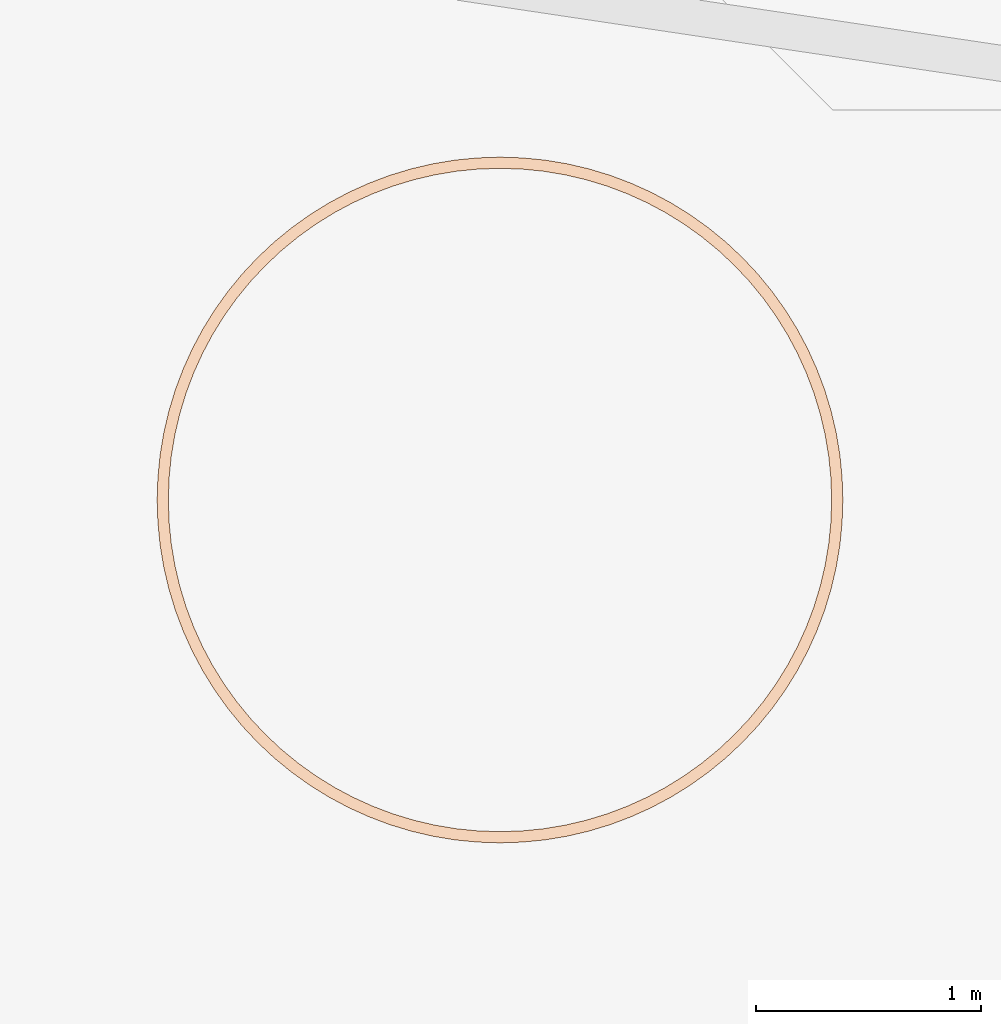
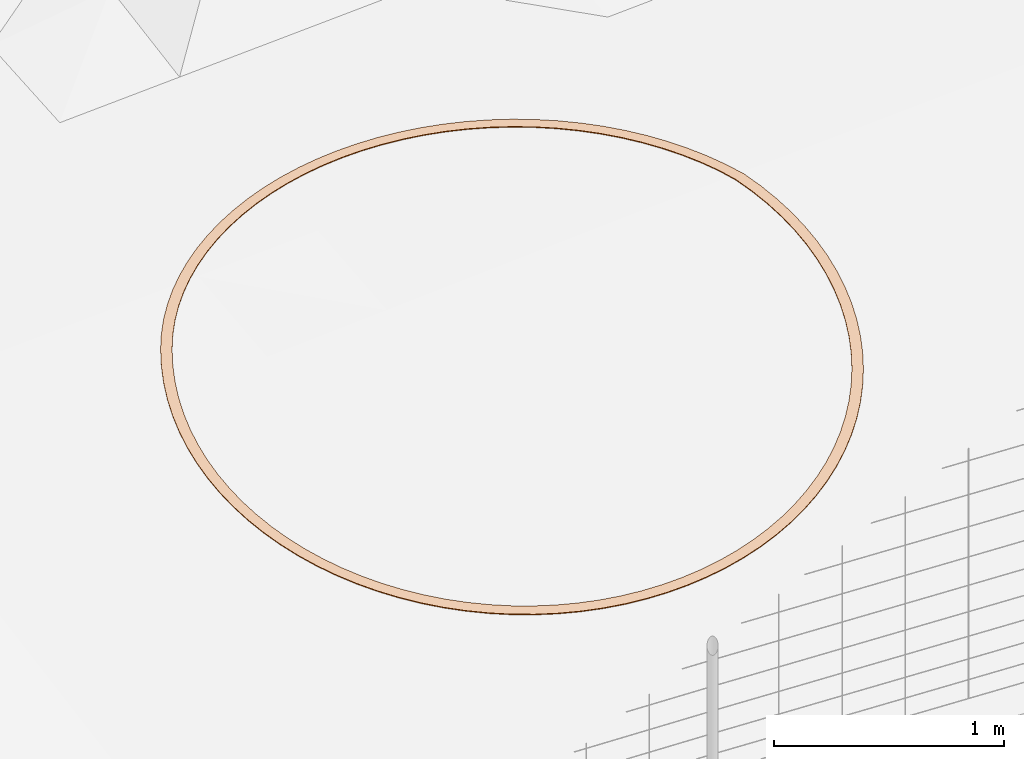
# Not in any storey, part 65 of 72: 1 geographic element.
"""IFC4 model written with IfcOpenShell, lengths in metres."""

from ifc_helpers import new_model, si_unit, direction, frame, origin_with_axes, place, context, subcontext, project, spatial, polygons, material, element, save


model = new_model("IFC4")

# Units and contexts
model_context = context("Model", 3, precision=1e-05, world=origin_with_axes(), true_north=direction((0.0, 1.0)))
body_context = subcontext(model_context, "Body", "Model", "MODEL_VIEW")
ifc_project = project(units=[si_unit("AREAUNIT", "SQUARE_METRE"), si_unit("VOLUMEUNIT", "CUBIC_METRE"), si_unit("LENGTHUNIT", "METRE")], contexts=[model_context])

# Site
site_placement = place(None, origin_with_axes())
site = spatial("IfcSite", under=ifc_project, at=site_placement, Name="Lares · Rua das Mercês · artigo 4771")

# Geographic element
ifc_material = material(Name="Marcação de plantação · linha no terreno", Category="stone")
geographic_element_placement = place(site_placement, frame((0.0, 0.0, 0.0), z_axis=(0.0, 0.0, 1.0), x_axis=(1.0, -1.03767253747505e-17, 0.0)))
element("IfcGeographicElement", 1, at=geographic_element_placement, inside=site, material=ifc_material, Name="Marcação no solo · árvore indicativa 06", ObjectType="Marcação no solo · árvore indicativa 06", PredefinedType="USERDEFINED", context=body_context, shape_type="Tessellation", body=[
    polygons([(39.4871146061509, 1.30639640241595, 13.7427497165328), (39.4871146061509, 1.30639640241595, 13.7467497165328), (39.5371146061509, 1.30639640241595, 13.7459093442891), (39.5371146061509, 1.30639640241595, 13.7499093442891), (39.4839565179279, 1.40286601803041, 13.7597891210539), (39.4839565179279, 1.40286601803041, 13.7637891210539), (39.5338494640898, 1.40613617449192, 13.7635263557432), (39.5338494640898, 1.40613617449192, 13.7675263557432), (39.4744957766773, 1.49892253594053, 13.7763564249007), (39.4744957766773, 1.49892253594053, 13.7803564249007), (39.524068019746, 1.50544884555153, 13.7806552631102), (39.524068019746, 1.50544884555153, 13.7846552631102), (39.4587728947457, 1.59415462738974, 13.7923806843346), (39.4587728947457, 1.59415462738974, 13.7963806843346), (39.5078121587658, 1.60390914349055, 13.7972227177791), (39.5078121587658, 1.60390914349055, 13.8012227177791), (39.4368551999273, 1.68815449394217, 13.8077932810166), (39.4368551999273, 1.68815449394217, 13.8117932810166), (39.4851514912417, 1.70109544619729, 13.8131577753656), (39.4851514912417, 1.70109544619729, 13.8171577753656), (39.4088365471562, 1.78051961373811, 13.8225282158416), (39.4088365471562, 1.78051961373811, 13.8265282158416), (39.456183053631, 1.79659158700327, 13.8282523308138), (39.456183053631, 1.79659158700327, 13.8322523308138), (39.3748369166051, 1.87085446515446, 13.8292976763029), (39.3748369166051, 1.87085446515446, 13.8332976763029), (39.4210308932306, 1.88998863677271, 13.8330959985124), (39.4210308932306, 1.88998863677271, 13.8370959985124), (39.3350018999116, 1.95877222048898, 13.833502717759), (39.3350018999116, 1.95877222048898, 13.837502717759), (39.3798455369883, 1.98088665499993, 13.8374435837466), (39.3798455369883, 1.98088665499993, 13.8414435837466), (39.289502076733, 2.04389640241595, 13.8372099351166), (39.289502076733, 2.04389640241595, 13.8412099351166), (39.3328033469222, 2.06889640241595, 13.8412764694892), (39.3328033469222, 2.06889640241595, 13.8452764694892), (39.2385322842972, 2.12586249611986, 13.8404034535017), (39.2385322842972, 2.12586249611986, 13.8444034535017), (39.2801057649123, 2.15364100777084, 13.8445782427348), (39.2801057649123, 2.15364100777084, 13.8485782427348), (39.1823107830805, 2.20431951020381, 13.8430695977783), (39.1823107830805, 2.20431951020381, 13.8470695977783), (39.2219784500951, 2.23475758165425, 13.8473347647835), (39.2219784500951, 2.23475758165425, 13.8513347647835), (39.1210783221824, 2.27893147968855, 13.8451969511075), (39.1210783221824, 2.27893147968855, 13.8491969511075), (39.1586703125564, 2.31189877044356, 13.8495342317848), (39.1586703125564, 2.31189877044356, 13.8535342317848), (39.0550971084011, 2.34937890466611, 13.8467764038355), (39.0550971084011, 2.34937890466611, 13.8507764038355), (39.0904524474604, 2.38473424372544, 13.8511672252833), (39.0904524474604, 2.38473424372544, 13.8551672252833), (38.9846496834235, 2.41536011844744, 13.8478011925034), (38.9846496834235, 2.41536011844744, 13.8518011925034), (39.0176169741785, 2.45295210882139, 13.8522267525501), (39.0176169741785, 2.45295210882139, 13.8562267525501), (38.9100377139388, 2.47659257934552, 13.8482669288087), (38.9100377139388, 2.47659257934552, 13.8522669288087), (38.9404757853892, 2.51626024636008, 13.8527082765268), (38.9404757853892, 2.51626024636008, 13.8567082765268), (38.8315806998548, 2.53281408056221, 13.8481716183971), (38.8315806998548, 2.53281408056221, 13.8521716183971), (38.8593592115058, 2.57438756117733, 13.8526097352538), (38.8593592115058, 2.57438756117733, 13.8566097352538), (38.7496146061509, 2.583783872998, 13.8475156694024), (38.7496146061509, 2.583783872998, 13.8515156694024), (38.7746146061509, 2.62708514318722, 13.8519315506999), (38.7746146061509, 2.62708514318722, 13.8559315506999), (38.6644904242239, 2.62928369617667, 13.8463018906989), (38.6644904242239, 2.62928369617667, 13.8503018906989), (38.6866048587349, 2.6741273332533, 13.8506766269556), (38.6866048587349, 2.6741273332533, 13.8546766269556), (38.5765726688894, 2.6691187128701, 13.8445354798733), (38.5765726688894, 2.6691187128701, 13.8485354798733), (38.5957068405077, 2.71531268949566, 13.848850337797), (38.5957068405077, 2.71531268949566, 13.852850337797), (38.4862378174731, 2.70311834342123, 13.842224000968), (38.4862378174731, 2.70311834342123, 13.846224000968), (38.5023097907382, 2.75046484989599, 13.8464605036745), (38.5023097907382, 2.75046484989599, 13.8504605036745), (38.3938726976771, 2.73113699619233, 13.8393773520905), (38.3938726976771, 2.73113699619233, 13.8433773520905), (38.4068136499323, 2.77943328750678, 13.843517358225), (38.4068136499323, 2.77943328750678, 13.847517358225), (38.2998728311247, 2.75305469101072, 13.8360077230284), (38.2998728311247, 2.75305469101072, 13.8400077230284), (38.3096273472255, 2.80209395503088, 13.8400335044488), (38.3096273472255, 2.80209395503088, 13.8440335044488), (38.2046407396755, 2.76877757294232, 13.8321295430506), (38.2046407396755, 2.76877757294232, 13.8361295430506), (38.2111670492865, 2.81834981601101, 13.8360238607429), (38.2111670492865, 2.81834981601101, 13.8400238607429), (38.1085842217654, 2.77823831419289, 13.8277594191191), (38.1085842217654, 2.77823831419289, 13.8317594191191), (38.1118543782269, 2.82813126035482, 13.8315055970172), (38.1118543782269, 2.82813126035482, 13.8355055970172), (38.0121146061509, 2.78139640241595, 13.8229160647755), (38.0121146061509, 2.78139640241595, 13.8269160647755), (38.0121146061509, 2.83139640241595, 13.8264980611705), (38.0121146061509, 2.83139640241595, 13.8304980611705), (37.9156449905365, 2.77823831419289, 13.8176202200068), (37.9156449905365, 2.77823831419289, 13.8216202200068), (37.9123748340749, 2.82813126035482, 13.8210226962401), (37.9123748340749, 2.82813126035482, 13.8250226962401), (37.8195884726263, 2.76877757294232, 13.8118945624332), (37.8195884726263, 2.76877757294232, 13.8158945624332), (37.8130621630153, 2.81834981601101, 13.8151029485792), (37.8130621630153, 2.81834981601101, 13.8191029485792), (37.7243563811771, 2.75305469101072, 13.8057636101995), (37.7243563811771, 2.75305469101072, 13.8097636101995), (37.7146018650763, 2.80209395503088, 13.8087641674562), (37.7146018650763, 2.80209395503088, 13.8127641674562), (37.6303565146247, 2.73113699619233, 13.7992536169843), (37.6303565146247, 2.73113699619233, 13.8032536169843), (37.6174155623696, 2.77943328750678, 13.802033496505), (37.6174155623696, 2.77943328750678, 13.806033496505), (37.5379913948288, 2.70311834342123, 13.7923924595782), (37.5379913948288, 2.70311834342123, 13.7963924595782), (37.5219194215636, 2.75046484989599, 13.7949397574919), (37.5219194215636, 2.75046484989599, 13.7989397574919), (37.4476565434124, 2.6691187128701, 13.7852095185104), (37.4476565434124, 2.6691187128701, 13.7892095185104), (37.4285223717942, 2.71531268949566, 13.7875133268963), (37.4285223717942, 2.71531268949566, 13.7915133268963), (37.3597387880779, 2.62928369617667, 13.7777355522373), (37.3597387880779, 2.62928369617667, 13.7817355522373), (37.3376243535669, 2.6741273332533, 13.7797860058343), (37.3376243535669, 2.6741273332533, 13.7837860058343), (37.2746146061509, 2.583783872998, 13.7700025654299), (37.2746146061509, 2.583783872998, 13.7740025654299), (37.2496146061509, 2.62708514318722, 13.7717908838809), (37.2496146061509, 2.62708514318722, 13.7757908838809), (37.192648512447, 2.53281408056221, 13.762043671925), (37.192648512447, 2.53281408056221, 13.766043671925), (37.164870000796, 2.57438756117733, 13.7635621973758), (37.164870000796, 2.57438756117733, 13.7675621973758), (37.1141914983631, 2.47659257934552, 13.7538929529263), (37.1141914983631, 2.47659257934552, 13.7578929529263), (37.0837534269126, 2.51626024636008, 13.7551351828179), (37.0837534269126, 2.51626024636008, 13.7591351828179), (37.0395795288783, 2.41536011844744, 13.745585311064), (37.0395795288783, 2.41536011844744, 13.749585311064), (37.0066122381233, 2.45295210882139, 13.7465459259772), (37.0066122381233, 2.45295210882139, 13.7505459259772), (36.9691321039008, 2.34937890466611, 13.737156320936), (36.9691321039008, 2.34937890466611, 13.741156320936), (36.9337767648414, 2.38473424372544, 13.7378312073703), (36.9337767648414, 2.38473424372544, 13.7418312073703), (36.9031508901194, 2.27893147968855, 13.7286420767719), (36.9031508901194, 2.27893147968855, 13.7326420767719), (36.8655588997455, 2.31189877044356, 13.72902834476), (36.8655588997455, 2.31189877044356, 13.73302834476), (36.8419184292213, 2.20431951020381, 13.7200790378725), (36.8419184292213, 2.20431951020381, 13.7240790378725), (36.8022507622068, 2.23475758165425, 13.7201750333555), (36.8022507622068, 2.23475758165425, 13.7241750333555), (36.7856969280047, 2.12586249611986, 13.7115038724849), (36.7856969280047, 2.12586249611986, 13.7155038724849), (36.7441234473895, 2.15364100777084, 13.7113091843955), (36.7441234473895, 2.15364100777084, 13.7153091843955), (36.7347271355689, 2.04389640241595, 13.7006094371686), (36.7347271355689, 2.04389640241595, 13.7046094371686), (36.6914258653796, 2.06889640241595, 13.7023405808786), (36.6914258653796, 2.06889640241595, 13.7063405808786), (36.6892273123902, 1.95877222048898, 13.6825226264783), (36.6892273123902, 1.95877222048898, 13.6865226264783), (36.6443836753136, 1.98088665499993, 13.6836406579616), (36.6443836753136, 1.98088665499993, 13.6876406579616), (36.6493922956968, 1.87085446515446, 13.6642945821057), (36.6493922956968, 1.87085446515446, 13.6682945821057), (36.6031983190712, 1.88998863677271, 13.6647947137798), (36.6031983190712, 1.88998863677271, 13.6687947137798), (36.6153926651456, 1.78051961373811, 13.6460033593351), (36.6153926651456, 1.78051961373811, 13.6500033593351), (36.5680461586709, 1.79659158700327, 13.6458834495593), (36.5680461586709, 1.79659158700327, 13.6498834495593), (36.5873740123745, 1.68815449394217, 13.6277272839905), (36.5873740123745, 1.68815449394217, 13.6317272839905), (36.5390777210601, 1.7010954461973, 13.6269878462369), (36.5390777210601, 1.7010954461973, 13.6309878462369), (36.5654563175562, 1.59415462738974, 13.6095446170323), (36.5654563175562, 1.59415462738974, 13.6135446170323), (36.516417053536, 1.60390914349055, 13.6081888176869), (36.516417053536, 1.60390914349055, 13.6121888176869), (36.5497334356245, 1.49892253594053, 13.591533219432), (36.5497334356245, 1.49892253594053, 13.595533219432), (36.5001611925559, 1.50544884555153, 13.5895668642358), (36.5001611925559, 1.50544884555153, 13.5935668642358), (36.540272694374, 1.40286601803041, 13.5737702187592), (36.540272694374, 1.40286601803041, 13.5777702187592), (36.490379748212, 1.40613617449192, 13.5712017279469), (36.490379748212, 1.40613617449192, 13.5752017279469), (36.5371146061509, 1.30639640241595, 13.5563316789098), (36.5371146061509, 1.30639640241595, 13.5603316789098), (36.4871146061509, 1.30639640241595, 13.5531720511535), (36.4871146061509, 1.30639640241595, 13.5571720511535), (36.540272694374, 1.20992678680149, 13.5392922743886), (36.540272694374, 1.20992678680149, 13.5432922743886), (36.490379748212, 1.20665663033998, 13.5355550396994), (36.490379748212, 1.20665663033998, 13.5395550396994), (36.5497334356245, 1.11387026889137, 13.5227249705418), (36.5497334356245, 1.11387026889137, 13.5267249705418), (36.5001611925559, 1.10734395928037, 13.5184261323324), (36.5001611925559, 1.10734395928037, 13.5224261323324), (36.5654563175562, 1.01863817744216, 13.5067007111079), (36.5654563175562, 1.01863817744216, 13.5107007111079), (36.516417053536, 1.00888366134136, 13.5018586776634), (36.516417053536, 1.00888366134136, 13.5058586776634), (36.5873740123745, 0.924638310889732, 13.4912881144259), (36.5873740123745, 0.924638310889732, 13.4952881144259), (36.5390777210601, 0.911697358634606, 13.4859236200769), (36.5390777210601, 0.911697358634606, 13.4899236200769), (36.6153926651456, 0.832273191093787, 13.4765531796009), (36.6153926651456, 0.832273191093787, 13.4805531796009), (36.5680461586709, 0.816201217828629, 13.4706891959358), (36.5680461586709, 0.816201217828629, 13.4746891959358), (36.6493922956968, 0.741938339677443, 13.4625590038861), (36.6493922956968, 0.741938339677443, 13.4665590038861), (36.6031983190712, 0.722804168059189, 13.4562206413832), (36.6031983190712, 0.722804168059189, 13.4602206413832), (36.6892273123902, 0.654020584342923, 13.4493655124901), (36.6892273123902, 0.654020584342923, 13.4533655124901), (36.6443836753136, 0.631906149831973, 13.4425799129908), (36.6443836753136, 0.631906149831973, 13.4465799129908), (36.7347271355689, 0.568896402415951, 13.4370292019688), (36.7347271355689, 0.568896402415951, 13.4410292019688), (36.6914258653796, 0.543896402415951, 13.4298254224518), (36.6914258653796, 0.543896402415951, 13.4338254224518), (36.7856969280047, 0.486930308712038, 13.4256028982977), (36.7856969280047, 0.486930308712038, 13.4296028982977), (36.7441234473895, 0.459151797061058, 13.4180117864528), (36.7441234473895, 0.459151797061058, 13.4220117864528), (36.8419184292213, 0.408473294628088, 13.4151355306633), (36.8419184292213, 0.408473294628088, 13.4191355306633), (36.8022507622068, 0.378035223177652, 13.4071895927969), (36.8022507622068, 0.378035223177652, 13.4111895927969), (36.9031508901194, 0.333861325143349, 13.4056719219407), (36.9031508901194, 0.333861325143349, 13.4096719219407), (36.8655588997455, 0.300894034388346, 13.3974051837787), (36.8655588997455, 0.300894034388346, 13.4014051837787), (36.9691321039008, 0.263413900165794, 13.3972525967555), (36.9691321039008, 0.263413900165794, 13.4012525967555), (36.9337767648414, 0.228058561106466, 13.3887004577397), (36.9337767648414, 0.228058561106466, 13.3927004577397), (37.0395795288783, 0.197432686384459, 13.3899136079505), (37.0395795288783, 0.197432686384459, 13.3939136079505), (37.0066122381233, 0.15984069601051, 13.3811126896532), (37.0066122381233, 0.15984069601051, 13.3851126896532), (37.1141914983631, 0.136200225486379, 13.3836863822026), (37.1141914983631, 0.136200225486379, 13.3876863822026), (37.0837534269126, 0.0965325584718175, 13.3746743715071), (37.0837534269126, 0.0965325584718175, 13.3786743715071), (37.192648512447, 0.0799787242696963, 13.3785975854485), (37.192648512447, 0.0799787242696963, 13.3825975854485), (37.164870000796, 0.0384052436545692, 13.3694130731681), (37.164870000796, 0.0384052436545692, 13.3734130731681), (37.2746146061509, 0.0290089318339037, 13.3746690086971), (37.2746146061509, 0.0290089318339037, 13.3786690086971), (37.2496146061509, -0.014292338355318, 13.3653513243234), (37.2496146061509, -0.014292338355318, 13.3693513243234), (37.3597387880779, -0.0164908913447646, 13.3719174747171), (37.3597387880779, -0.0164908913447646, 13.3759174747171), (37.3376243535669, -0.0613345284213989, 13.3625065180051), (37.3376243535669, -0.0613345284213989, 13.3665065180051), (37.4476565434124, -0.0563259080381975, 13.3703547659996), (37.4476565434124, -0.0563259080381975, 13.3743547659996), (37.4285223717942, -0.102519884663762, 13.3608908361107), (37.4285223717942, -0.102519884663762, 13.3648908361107), (37.5379913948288, -0.0903255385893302, 13.3699875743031), (37.5379913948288, -0.0903255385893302, 13.3739875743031), (37.5219194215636, -0.137672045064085, 13.360511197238), (37.5219194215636, -0.137672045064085, 13.364511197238), (37.6303565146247, -0.118344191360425, 13.3708174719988), (37.6303565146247, -0.118344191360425, 13.3748174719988), (37.6174155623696, -0.166640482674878, 13.361369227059), (37.6174155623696, -0.166640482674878, 13.365369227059), (37.7243563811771, -0.140261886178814, 13.3728409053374), (37.7243563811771, -0.140261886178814, 13.3768409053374), (37.7146018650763, -0.189301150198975, 13.3634612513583), (37.7146018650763, -0.189301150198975, 13.3674612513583), (37.8195884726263, -0.15598476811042, 13.3760492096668), (37.8195884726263, -0.15598476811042, 13.3800492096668), (37.8130621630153, -0.20555701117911, 13.3667783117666), (37.8130621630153, -0.20555701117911, 13.3707783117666), (37.9156449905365, -0.165445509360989, 13.3804286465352), (37.9156449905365, -0.165445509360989, 13.3844286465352), (37.9123748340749, -0.21533845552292, 13.3713062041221), (37.9123748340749, -0.21533845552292, 13.3753062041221), (38.0121146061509, -0.168603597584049, 13.3859604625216), (38.0121146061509, -0.168603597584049, 13.3899604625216), (38.0121146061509, -0.218603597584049, 13.3770255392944), (38.0121146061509, -0.218603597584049, 13.3810255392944), (38.1085842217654, -0.16544550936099, 13.3926209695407), (38.1085842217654, -0.16544550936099, 13.3966209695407), (38.1118543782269, -0.21533845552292, 13.3839118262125), (38.1118543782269, -0.21533845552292, 13.3879118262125), (38.2046407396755, -0.15598476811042, 13.4003816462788), (38.2046407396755, -0.15598476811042, 13.4043816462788), (38.2111670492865, -0.20555701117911, 13.3919355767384), (38.2111670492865, -0.20555701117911, 13.3959355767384), (38.2998728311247, -0.140261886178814, 13.4092092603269), (38.2998728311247, -0.140261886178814, 13.4132092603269), (38.3096273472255, -0.189301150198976, 13.4010624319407), (38.3096273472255, -0.189301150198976, 13.4050624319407), (38.3938726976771, -0.118344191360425, 13.4190660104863), (38.3938726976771, -0.118344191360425, 13.4230660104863), (38.4068136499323, -0.166640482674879, 13.4112533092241), (38.4068136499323, -0.166640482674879, 13.4152533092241), (38.4862378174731, -0.0903255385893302, 13.4299096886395), (38.4862378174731, -0.0903255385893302, 13.4339096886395), (38.5023097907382, -0.137672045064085, 13.4224645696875), (38.5023097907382, -0.137672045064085, 13.4264645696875), (38.5765726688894, -0.0563259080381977, 13.4416938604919), (38.5765726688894, -0.0563259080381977, 13.4456938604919), (38.5957068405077, -0.102519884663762, 13.4346482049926), (38.5957068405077, -0.102519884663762, 13.4386482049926), (38.6644904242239, -0.0164908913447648, 13.4543680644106), (38.6644904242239, -0.0164908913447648, 13.4583680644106), (38.6866048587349, -0.0613345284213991, 13.4477520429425), (38.6866048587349, -0.0613345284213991, 13.4517520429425), (38.7496146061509, 0.0290089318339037, 13.4678780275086), (38.7496146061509, 0.0290089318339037, 13.4718780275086), (38.7746146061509, -0.0142923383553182, 13.4617199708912), (38.7746146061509, -0.0142923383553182, 13.4657199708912), (38.8315806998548, 0.0799787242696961, 13.4821658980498), (38.8315806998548, 0.0799787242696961, 13.4861658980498), (38.8593592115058, 0.038405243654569, 13.476492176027), (38.8593592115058, 0.038405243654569, 13.480492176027), (38.9100377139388, 0.136200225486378, 13.497170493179), (38.9100377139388, 0.136200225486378, 13.501170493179), (38.9404757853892, 0.0965325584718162, 13.4920054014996), (38.9404757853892, 0.0965325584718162, 13.4960054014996), (38.9846496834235, 0.197432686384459, 13.5128275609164), (38.9846496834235, 0.197432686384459, 13.5168275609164), (39.0176169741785, 0.159840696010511, 13.5081932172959), (39.0176169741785, 0.159840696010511, 13.5121932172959), (39.0550971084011, 0.263413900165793, 13.5290700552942), (39.0550971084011, 0.263413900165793, 13.5330700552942), (39.0904524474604, 0.228058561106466, 13.5249863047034), (39.0904524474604, 0.228058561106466, 13.5289863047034), (39.1210783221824, 0.333861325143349, 13.5458284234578), (39.1210783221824, 0.333861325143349, 13.5498284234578), (39.1586703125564, 0.300894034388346, 13.5423127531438), (39.1586703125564, 0.300894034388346, 13.5463127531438), (39.1823107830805, 0.408473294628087, 13.563030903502), (39.1823107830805, 0.408473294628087, 13.567030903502), (39.2219784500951, 0.378035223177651, 13.5600983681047), (39.2219784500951, 0.378035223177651, 13.5640983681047), (39.2385322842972, 0.486930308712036, 13.5806038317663), (39.2385322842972, 0.486930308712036, 13.5846038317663), (39.2801057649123, 0.459151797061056, 13.5782669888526), (39.2801057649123, 0.459151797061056, 13.5822669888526), (39.289502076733, 0.56889640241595, 13.598471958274), (39.289502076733, 0.56889640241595, 13.602471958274), (39.3328033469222, 0.54389640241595, 13.5967408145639), (39.3328033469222, 0.54389640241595, 13.6007408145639), (39.3350018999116, 0.654020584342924, 13.6165587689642), (39.3350018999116, 0.654020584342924, 13.6205587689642), (39.3798455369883, 0.631906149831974, 13.6154407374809), (39.3798455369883, 0.631906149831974, 13.6194407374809), (39.3748369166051, 0.741938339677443, 13.6347868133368), (39.3748369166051, 0.741938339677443, 13.6387868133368), (39.4210308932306, 0.722804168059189, 13.6342866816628), (39.4210308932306, 0.722804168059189, 13.6382866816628), (39.4088365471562, 0.832273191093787, 13.6530780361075), (39.4088365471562, 0.832273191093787, 13.6570780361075), (39.456183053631, 0.816201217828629, 13.6531979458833), (39.456183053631, 0.816201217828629, 13.6571979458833), (39.4368551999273, 0.924638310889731, 13.6713541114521), (39.4368551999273, 0.924638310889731, 13.6753541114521), (39.4851514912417, 0.911697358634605, 13.6720935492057), (39.4851514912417, 0.911697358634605, 13.6760935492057), (39.4587728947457, 1.01863817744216, 13.6895367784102), (39.4587728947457, 1.01863817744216, 13.6935367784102), (39.5078121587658, 1.00888366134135, 13.6908925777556), (39.5078121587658, 1.00888366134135, 13.6948925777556), (39.4744957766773, 1.11387026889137, 13.7075481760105), (39.4744957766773, 1.11387026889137, 13.7115481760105), (39.524068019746, 1.10734395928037, 13.7095145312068), (39.524068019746, 1.10734395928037, 13.7135145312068), (39.4839565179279, 1.20992678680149, 13.7253111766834), (39.4839565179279, 1.20992678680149, 13.7293111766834), (39.5338494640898, 1.20665663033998, 13.7278796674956), (39.5338494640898, 1.20665663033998, 13.7318796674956)], [[[5, 7, 3, 1]], [[4, 8, 6, 2]], [[2, 6, 5, 1]], [[7, 8, 4, 3]], [[9, 11, 7, 5]], [[8, 12, 10, 6]], [[6, 10, 9, 5]], [[11, 12, 8, 7]], [[13, 15, 11, 9]], [[12, 16, 14, 10]], [[10, 14, 13, 9]], [[15, 16, 12, 11]], [[17, 19, 15, 13]], [[16, 20, 18, 14]], [[14, 18, 17, 13]], [[19, 20, 16, 15]], [[21, 23, 19, 17]], [[20, 24, 22, 18]], [[18, 22, 21, 17]], [[23, 24, 20, 19]], [[25, 27, 23, 21]], [[24, 28, 26, 22]], [[22, 26, 25, 21]], [[27, 28, 24, 23]], [[29, 31, 27, 25]], [[28, 32, 30, 26]], [[26, 30, 29, 25]], [[31, 32, 28, 27]], [[33, 35, 31, 29]], [[32, 36, 34, 30]], [[30, 34, 33, 29]], [[35, 36, 32, 31]], [[37, 39, 35, 33]], [[36, 40, 38, 34]], [[34, 38, 37, 33]], [[39, 40, 36, 35]], [[41, 43, 39, 37]], [[40, 44, 42, 38]], [[38, 42, 41, 37]], [[43, 44, 40, 39]], [[45, 47, 43, 41]], [[44, 48, 46, 42]], [[42, 46, 45, 41]], [[47, 48, 44, 43]], [[49, 51, 47, 45]], [[48, 52, 50, 46]], [[46, 50, 49, 45]], [[51, 52, 48, 47]], [[53, 55, 51, 49]], [[52, 56, 54, 50]], [[50, 54, 53, 49]], [[55, 56, 52, 51]], [[57, 59, 55, 53]], [[56, 60, 58, 54]], [[54, 58, 57, 53]], [[59, 60, 56, 55]], [[61, 63, 59, 57]], [[60, 64, 62, 58]], [[58, 62, 61, 57]], [[63, 64, 60, 59]], [[65, 67, 63, 61]], [[64, 68, 66, 62]], [[62, 66, 65, 61]], [[67, 68, 64, 63]], [[69, 71, 67, 65]], [[68, 72, 70, 66]], [[66, 70, 69, 65]], [[71, 72, 68, 67]], [[73, 75, 71, 69]], [[72, 76, 74, 70]], [[70, 74, 73, 69]], [[75, 76, 72, 71]], [[77, 79, 75, 73]], [[76, 80, 78, 74]], [[74, 78, 77, 73]], [[79, 80, 76, 75]], [[81, 83, 79, 77]], [[80, 84, 82, 78]], [[78, 82, 81, 77]], [[83, 84, 80, 79]], [[85, 87, 83, 81]], [[84, 88, 86, 82]], [[82, 86, 85, 81]], [[87, 88, 84, 83]], [[89, 91, 87, 85]], [[88, 92, 90, 86]], [[86, 90, 89, 85]], [[91, 92, 88, 87]], [[93, 95, 91, 89]], [[92, 96, 94, 90]], [[90, 94, 93, 89]], [[95, 96, 92, 91]], [[97, 99, 95, 93]], [[96, 100, 98, 94]], [[94, 98, 97, 93]], [[99, 100, 96, 95]], [[101, 103, 99, 97]], [[100, 104, 102, 98]], [[98, 102, 101, 97]], [[103, 104, 100, 99]], [[105, 107, 103, 101]], [[104, 108, 106, 102]], [[102, 106, 105, 101]], [[107, 108, 104, 103]], [[109, 111, 107, 105]], [[108, 112, 110, 106]], [[106, 110, 109, 105]], [[111, 112, 108, 107]], [[113, 115, 111, 109]], [[112, 116, 114, 110]], [[110, 114, 113, 109]], [[115, 116, 112, 111]], [[117, 119, 115, 113]], [[116, 120, 118, 114]], [[114, 118, 117, 113]], [[119, 120, 116, 115]], [[121, 123, 119, 117]], [[120, 124, 122, 118]], [[118, 122, 121, 117]], [[123, 124, 120, 119]], [[125, 127, 123, 121]], [[124, 128, 126, 122]], [[122, 126, 125, 121]], [[127, 128, 124, 123]], [[129, 131, 127, 125]], [[128, 132, 130, 126]], [[126, 130, 129, 125]], [[131, 132, 128, 127]], [[133, 135, 131, 129]], [[132, 136, 134, 130]], [[130, 134, 133, 129]], [[135, 136, 132, 131]], [[137, 139, 135, 133]], [[136, 140, 138, 134]], [[134, 138, 137, 133]], [[139, 140, 136, 135]], [[141, 143, 139, 137]], [[140, 144, 142, 138]], [[138, 142, 141, 137]], [[143, 144, 140, 139]], [[145, 147, 143, 141]], [[144, 148, 146, 142]], [[142, 146, 145, 141]], [[147, 148, 144, 143]], [[149, 151, 147, 145]], [[148, 152, 150, 146]], [[146, 150, 149, 145]], [[151, 152, 148, 147]], [[153, 155, 151, 149]], [[152, 156, 154, 150]], [[150, 154, 153, 149]], [[155, 156, 152, 151]], [[157, 159, 155, 153]], [[156, 160, 158, 154]], [[154, 158, 157, 153]], [[159, 160, 156, 155]], [[161, 163, 159, 157]], [[160, 164, 162, 158]], [[158, 162, 161, 157]], [[163, 164, 160, 159]], [[165, 167, 163, 161]], [[164, 168, 166, 162]], [[162, 166, 165, 161]], [[167, 168, 164, 163]], [[169, 171, 167, 165]], [[168, 172, 170, 166]], [[166, 170, 169, 165]], [[171, 172, 168, 167]], [[173, 175, 171, 169]], [[172, 176, 174, 170]], [[170, 174, 173, 169]], [[175, 176, 172, 171]], [[177, 179, 175, 173]], [[176, 180, 178, 174]], [[174, 178, 177, 173]], [[179, 180, 176, 175]], [[181, 183, 179, 177]], [[180, 184, 182, 178]], [[178, 182, 181, 177]], [[183, 184, 180, 179]], [[185, 187, 183, 181]], [[184, 188, 186, 182]], [[182, 186, 185, 181]], [[187, 188, 184, 183]], [[189, 191, 187, 185]], [[188, 192, 190, 186]], [[186, 190, 189, 185]], [[191, 192, 188, 187]], [[193, 195, 191, 189]], [[192, 196, 194, 190]], [[190, 194, 193, 189]], [[195, 196, 192, 191]], [[197, 199, 195, 193]], [[196, 200, 198, 194]], [[194, 198, 197, 193]], [[199, 200, 196, 195]], [[201, 203, 199, 197]], [[200, 204, 202, 198]], [[198, 202, 201, 197]], [[203, 204, 200, 199]], [[205, 207, 203, 201]], [[204, 208, 206, 202]], [[202, 206, 205, 201]], [[207, 208, 204, 203]], [[209, 211, 207, 205]], [[208, 212, 210, 206]], [[206, 210, 209, 205]], [[211, 212, 208, 207]], [[213, 215, 211, 209]], [[212, 216, 214, 210]], [[210, 214, 213, 209]], [[215, 216, 212, 211]], [[217, 219, 215, 213]], [[216, 220, 218, 214]], [[214, 218, 217, 213]], [[219, 220, 216, 215]], [[221, 223, 219, 217]], [[220, 224, 222, 218]], [[218, 222, 221, 217]], [[223, 224, 220, 219]], [[225, 227, 223, 221]], [[224, 228, 226, 222]], [[222, 226, 225, 221]], [[227, 228, 224, 223]], [[229, 231, 227, 225]], [[228, 232, 230, 226]], [[226, 230, 229, 225]], [[231, 232, 228, 227]], [[233, 235, 231, 229]], [[232, 236, 234, 230]], [[230, 234, 233, 229]], [[235, 236, 232, 231]], [[237, 239, 235, 233]], [[236, 240, 238, 234]], [[234, 238, 237, 233]], [[239, 240, 236, 235]], [[241, 243, 239, 237]], [[240, 244, 242, 238]], [[238, 242, 241, 237]], [[243, 244, 240, 239]], [[245, 247, 243, 241]], [[244, 248, 246, 242]], [[242, 246, 245, 241]], [[247, 248, 244, 243]], [[249, 251, 247, 245]], [[248, 252, 250, 246]], [[246, 250, 249, 245]], [[251, 252, 248, 247]], [[253, 255, 251, 249]], [[252, 256, 254, 250]], [[250, 254, 253, 249]], [[255, 256, 252, 251]], [[257, 259, 255, 253]], [[256, 260, 258, 254]], [[254, 258, 257, 253]], [[259, 260, 256, 255]], [[261, 263, 259, 257]], [[260, 264, 262, 258]], [[258, 262, 261, 257]], [[263, 264, 260, 259]], [[265, 267, 263, 261]], [[264, 268, 266, 262]], [[262, 266, 265, 261]], [[267, 268, 264, 263]], [[269, 271, 267, 265]], [[268, 272, 270, 266]], [[266, 270, 269, 265]], [[271, 272, 268, 267]], [[273, 275, 271, 269]], [[272, 276, 274, 270]], [[270, 274, 273, 269]], [[275, 276, 272, 271]], [[277, 279, 275, 273]], [[276, 280, 278, 274]], [[274, 278, 277, 273]], [[279, 280, 276, 275]], [[281, 283, 279, 277]], [[280, 284, 282, 278]], [[278, 282, 281, 277]], [[283, 284, 280, 279]], [[285, 287, 283, 281]], [[284, 288, 286, 282]], [[282, 286, 285, 281]], [[287, 288, 284, 283]], [[289, 291, 287, 285]], [[288, 292, 290, 286]], [[286, 290, 289, 285]], [[291, 292, 288, 287]], [[293, 295, 291, 289]], [[292, 296, 294, 290]], [[290, 294, 293, 289]], [[295, 296, 292, 291]], [[297, 299, 295, 293]], [[296, 300, 298, 294]], [[294, 298, 297, 293]], [[299, 300, 296, 295]], [[301, 303, 299, 297]], [[300, 304, 302, 298]], [[298, 302, 301, 297]], [[303, 304, 300, 299]], [[305, 307, 303, 301]], [[304, 308, 306, 302]], [[302, 306, 305, 301]], [[307, 308, 304, 303]], [[309, 311, 307, 305]], [[308, 312, 310, 306]], [[306, 310, 309, 305]], [[311, 312, 308, 307]], [[313, 315, 311, 309]], [[312, 316, 314, 310]], [[310, 314, 313, 309]], [[315, 316, 312, 311]], [[317, 319, 315, 313]], [[316, 320, 318, 314]], [[314, 318, 317, 313]], [[319, 320, 316, 315]], [[321, 323, 319, 317]], [[320, 324, 322, 318]], [[318, 322, 321, 317]], [[323, 324, 320, 319]], [[325, 327, 323, 321]], [[324, 328, 326, 322]], [[322, 326, 325, 321]], [[327, 328, 324, 323]], [[329, 331, 327, 325]], [[328, 332, 330, 326]], [[326, 330, 329, 325]], [[331, 332, 328, 327]], [[333, 335, 331, 329]], [[332, 336, 334, 330]], [[330, 334, 333, 329]], [[335, 336, 332, 331]], [[337, 339, 335, 333]], [[336, 340, 338, 334]], [[334, 338, 337, 333]], [[339, 340, 336, 335]], [[341, 343, 339, 337]], [[340, 344, 342, 338]], [[338, 342, 341, 337]], [[343, 344, 340, 339]], [[345, 347, 343, 341]], [[344, 348, 346, 342]], [[342, 346, 345, 341]], [[347, 348, 344, 343]], [[349, 351, 347, 345]], [[348, 352, 350, 346]], [[346, 350, 349, 345]], [[351, 352, 348, 347]], [[353, 355, 351, 349]], [[352, 356, 354, 350]], [[350, 354, 353, 349]], [[355, 356, 352, 351]], [[357, 359, 355, 353]], [[356, 360, 358, 354]], [[354, 358, 357, 353]], [[359, 360, 356, 355]], [[361, 363, 359, 357]], [[360, 364, 362, 358]], [[358, 362, 361, 357]], [[363, 364, 360, 359]], [[365, 367, 363, 361]], [[364, 368, 366, 362]], [[362, 366, 365, 361]], [[367, 368, 364, 363]], [[369, 371, 367, 365]], [[368, 372, 370, 366]], [[366, 370, 369, 365]], [[371, 372, 368, 367]], [[373, 375, 371, 369]], [[372, 376, 374, 370]], [[370, 374, 373, 369]], [[375, 376, 372, 371]], [[377, 379, 375, 373]], [[376, 380, 378, 374]], [[374, 378, 377, 373]], [[379, 380, 376, 375]], [[381, 383, 379, 377]], [[380, 384, 382, 378]], [[378, 382, 381, 377]], [[383, 384, 380, 379]], [[1, 3, 383, 381]], [[384, 4, 2, 382]], [[382, 2, 1, 381]], [[3, 4, 384, 383]]]),
])

save(model, "model.ifc")
